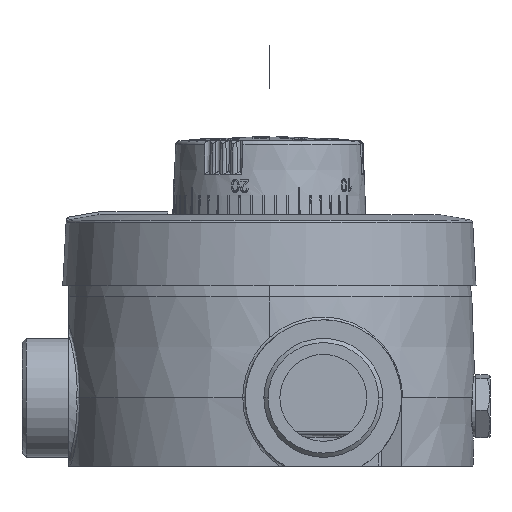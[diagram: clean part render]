
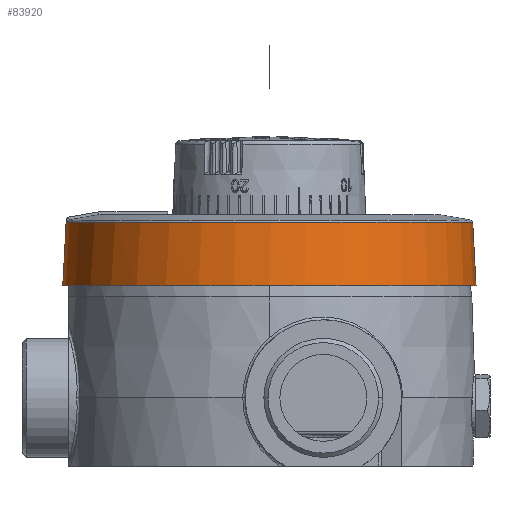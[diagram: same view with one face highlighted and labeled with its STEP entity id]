
A CAD part, left-side view. The second image highlights one B-rep face of the part: STEP entity #83920.
In plain terms, the highlighted conical face has half-angle 3 degrees and reference radius 71.581 mm.
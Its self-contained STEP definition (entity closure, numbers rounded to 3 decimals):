
#595 = VERTEX_POINT ( 'NONE', #72491 ) ;
#2050 = CONICAL_SURFACE ( 'NONE', #109020, 71.581, 0.052 ) ;
#7211 = LINE ( 'NONE', #14766, #29664 ) ;
#7290 = ORIENTED_EDGE ( 'NONE', *, *, #124013, .F. ) ;
#8804 = VERTEX_POINT ( 'NONE', #36650 ) ;
#14766 = CARTESIAN_POINT ( 'NONE',  ( -71.581, 0., 22.17 ) ) ;
#16398 = ORIENTED_EDGE ( 'NONE', *, *, #111408, .F. ) ;
#16976 = ORIENTED_EDGE ( 'NONE', *, *, #31376, .T. ) ;
#20000 = CARTESIAN_POINT ( 'NONE',  ( 0., 0., 22.287 ) ) ;
#20374 = CARTESIAN_POINT ( 'NONE',  ( -71.527, -1.003, 23.078 ) ) ;
#20431 = VERTEX_POINT ( 'NONE', #76207 ) ;
#22966 = AXIS2_PLACEMENT_3D ( 'NONE', #112161, #54443, #121820 ) ;
#28019 = AXIS2_PLACEMENT_3D ( 'NONE', #32630, #100006, #42292 ) ;
#28235 = EDGE_CURVE ( 'NONE', #86358, #32222, #45148, .T. ) ;
#28291 = ORIENTED_EDGE ( 'NONE', *, *, #28235, .T. ) ;
#29299 = DIRECTION ( 'NONE',  ( 0.052, 0., -0.999 ) ) ;
#29577 = CIRCLE ( 'NONE', #28019, 72.743 ) ;
#29615 = DIRECTION ( 'NONE',  ( -1., 0., 0. ) ) ;
#29664 = VECTOR ( 'NONE', #63075, 1000. ) ;
#31376 = EDGE_CURVE ( 'NONE', #32222, #595, #7211, .T. ) ;
#32222 = VERTEX_POINT ( 'NONE', #51575 ) ;
#32630 = CARTESIAN_POINT ( 'NONE',  ( 0., 0., 0. ) ) ;
#35587 = AXIS2_PLACEMENT_3D ( 'NONE', #20000, #87332, #29615 ) ;
#36650 = CARTESIAN_POINT ( 'NONE',  ( 71.575, 0., 22.287 ) ) ;
#37825 = DIRECTION ( 'NONE',  ( 0., 0., -1. ) ) ;
#38225 = DIRECTION ( 'NONE',  ( -1., 0., 0. ) ) ;
#39693 = CARTESIAN_POINT ( 'NONE',  ( -71.533, -1.003, 22.96 ) ) ;
#42292 = DIRECTION ( 'NONE',  ( -1., 0., 0. ) ) ;
#45148 = CIRCLE ( 'NONE', #22966, 71.527 ) ;
#46982 = CIRCLE ( 'NONE', #35587, 71.575 ) ;
#49030 = B_SPLINE_CURVE_WITH_KNOTS ( 'NONE', 3,
 ( #68342, #20374, #39693, #107074, #49340, #116739, #59068 ),
 .UNSPECIFIED., .F., .F.,
 ( 4, 3, 4 ),
 ( 0.001, 0.001, 0.002 ),
 .UNSPECIFIED. ) ;
#49340 = CARTESIAN_POINT ( 'NONE',  ( -71.549, -1.001, 22.657 ) ) ;
#50997 = CARTESIAN_POINT ( 'NONE',  ( -71.568, -1., 22.287 ) ) ;
#51575 = CARTESIAN_POINT ( 'NONE',  ( -71.527, 0., 23.196 ) ) ;
#52889 = CARTESIAN_POINT ( 'NONE',  ( -71.52, -1.004, 23.196 ) ) ;
#54443 = DIRECTION ( 'NONE',  ( 0., 0., -1. ) ) ;
#56207 = FACE_OUTER_BOUND ( 'NONE', #89548, .T. ) ;
#59068 = CARTESIAN_POINT ( 'NONE',  ( -71.568, -1., 22.287 ) ) ;
#59775 = VECTOR ( 'NONE', #29299, 1000. ) ;
#63075 = DIRECTION ( 'NONE',  ( -0.052, 0., -0.999 ) ) ;
#66854 = CARTESIAN_POINT ( 'NONE',  ( 0., 0., 22.17 ) ) ;
#68342 = CARTESIAN_POINT ( 'NONE',  ( -71.52, -1.004, 23.196 ) ) ;
#72491 = CARTESIAN_POINT ( 'NONE',  ( -72.743, 0., 0. ) ) ;
#73261 = VERTEX_POINT ( 'NONE', #50997 ) ;
#76207 = CARTESIAN_POINT ( 'NONE',  ( 72.743, 0., 0. ) ) ;
#83920 = ADVANCED_FACE ( 'NONE', ( #56207 ), #2050, .T. ) ;
#86358 = VERTEX_POINT ( 'NONE', #52889 ) ;
#87332 = DIRECTION ( 'NONE',  ( 0., 0., 1. ) ) ;
#89548 = EDGE_LOOP ( 'NONE', ( #118665, #109029, #7290, #28291, #16976, #16398 ) ) ;
#96260 = CARTESIAN_POINT ( 'NONE',  ( 71.581, 0., 22.17 ) ) ;
#100006 = DIRECTION ( 'NONE',  ( 0., 0., -1. ) ) ;
#107074 = CARTESIAN_POINT ( 'NONE',  ( -71.539, -1.002, 22.841 ) ) ;
#109020 = AXIS2_PLACEMENT_3D ( 'NONE', #66854, #37825, #38225 ) ;
#109029 = ORIENTED_EDGE ( 'NONE', *, *, #115098, .F. ) ;
#111408 = EDGE_CURVE ( 'NONE', #20431, #595, #29577, .T. ) ;
#112161 = CARTESIAN_POINT ( 'NONE',  ( 0., 0., 23.196 ) ) ;
#114052 = LINE ( 'NONE', #96260, #59775 ) ;
#115098 = EDGE_CURVE ( 'NONE', #73261, #8804, #46982, .T. ) ;
#116739 = CARTESIAN_POINT ( 'NONE',  ( -71.558, -1., 22.472 ) ) ;
#118665 = ORIENTED_EDGE ( 'NONE', *, *, #119204, .F. ) ;
#119204 = EDGE_CURVE ( 'NONE', #8804, #20431, #114052, .T. ) ;
#121820 = DIRECTION ( 'NONE',  ( 1., 0., 0. ) ) ;
#124013 = EDGE_CURVE ( 'NONE', #86358, #73261, #49030, .T. ) ;
